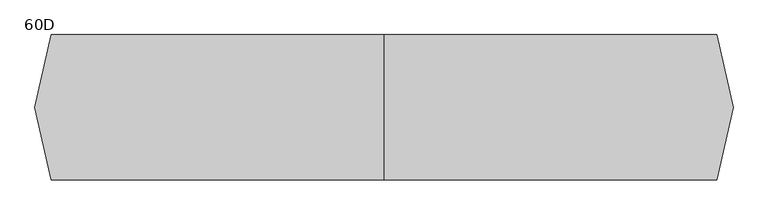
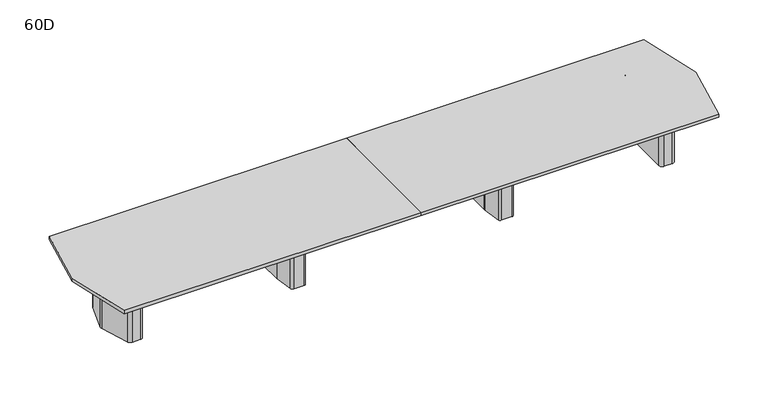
"""IFC4 building model written with IfcOpenShell, lengths in millimetres: furniture geometry, Coalesse_AM_Table_Conference_ETable2_Faceted_24ft_FourBase : 60D."""

from ifc_helpers import new_model, si_unit, point, frame, frame_2d, origin, origin_with_axes, place, context, project, spatial, polyline, circle_curve, trimmed, segment, composite_curve, outline, extrude, source, transform, mapped, element, save
from ifc_brep_helpers import plane_surface, cylinder_surface, revolved_surface, advanced_brep


def furniture_60d_7845ec57(model_context):
    return source(origin(), model_context, "Body", "SolidModel", [
        advanced_brep(
        [(1280.2357815, 381.0, 698.5), (1158.1642185, 381.0, 698.5), (1133.0114006, 359.1349332, 698.5), (1101.9721821, 138.2753661, 698.5), (1101.725, 134.740433, 698.5), (1101.725, -134.7404196, 698.5), (1101.9721537, -138.2751502, 698.5), (1133.0095605, -359.1347306, 698.5), (1158.1624068, -381.0, 698.5), (1280.2375932, -381.0, 698.5), (1305.3904395, -359.1347306, 698.5), (1336.4278463, -138.2751502, 698.5), (1336.675, -134.7404196, 698.5), (1336.675, 134.740433, 698.5), (1336.4278179, 138.2753661, 698.5), (1305.3885994, 359.1349332, 698.5), (1244.6, 314.325, 698.5), (1270.0, 288.925, 698.5), (1270.0, -288.925, 698.5), (1244.6, -314.325, 698.5), (1193.8, -314.325, 698.5), (1168.4, -288.925, 698.5), (1168.4, 288.925, 698.5), (1193.8, 314.325, 698.5), (1280.2357815, 381.0, 3.175), (1305.3885994, 359.1349332, 3.175), (1336.4278179, 138.2753661, 3.175), (1336.675, 134.740433, 3.175), (1336.675, -134.7404196, 3.175), (1336.4278463, -138.2751502, 3.175), (1305.3904395, -359.1347306, 3.175), (1280.2375932, -381.0, 3.175), (1158.1624068, -381.0, 3.175), (1133.0095605, -359.1347306, 3.175), (1101.9721537, -138.2751502, 3.175), (1101.725, -134.7404196, 3.175), (1101.725, 134.740433, 3.175), (1101.9721821, 138.2753661, 3.175), (1133.0114006, 359.1349332, 3.175), (1158.1642185, 381.0, 3.175), (1244.6, 327.025, 3.175), (1193.8, 327.025, 3.175), (1155.7, 288.925, 3.175), (1155.7, -288.925, 3.175), (1193.8, -327.025, 3.175), (1244.6, -327.025, 3.175), (1282.7, -288.925, 3.175), (1282.7, 288.925, 3.175), (1244.6, 314.325, 3.175), (1270.0, 288.925, 3.175), (1270.0, -288.925, 3.175), (1244.6, -314.325, 3.175), (1193.8, -314.325, 3.175), (1168.4, -288.925, 3.175), (1168.4, 288.925, 3.175), (1193.8, 314.325, 3.175), (1244.6, 327.025, 0.0), (1282.7, 288.925, 0.0), (1282.7, -288.925, 0.0), (1244.6, -327.025, 0.0), (1193.8, -327.025, 0.0), (1155.7, -288.925, 0.0), (1155.7, 288.925, 0.0), (1193.8, 327.025, 0.0)],
        [
            (0, 1),
            (1, 2, circle_curve(frame((1158.1642185, 355.6, 698.5), z_axis=(0.0, 0.0, 1.0), x_axis=(1.0, 0.0, 0.0)), 25.4)),
            (2, 3),
            (3, 4, circle_curve(frame((1127.125, 134.740433, 698.5), z_axis=(0.0, 0.0, 1.0), x_axis=(1.0, 0.0, 0.0)), 25.4)),
            (4, 5),
            (5, 6, circle_curve(frame((1127.125, -134.7404196, 698.5), z_axis=(0.0, 0.0, 1.0), x_axis=(1.0, 0.0, 0.0)), 25.4)),
            (6, 7),
            (7, 8, circle_curve(frame((1158.1624068, -355.6, 698.5), z_axis=(0.0, 0.0, 1.0), x_axis=(1.0, 0.0, 0.0)), 25.4)),
            (8, 9),
            (9, 10, circle_curve(frame((1280.2375932, -355.6, 698.5), z_axis=(0.0, 0.0, 1.0), x_axis=(1.0, 0.0, 0.0)), 25.4)),
            (10, 11),
            (11, 12, circle_curve(frame((1311.275, -134.7404196, 698.5), z_axis=(0.0, 0.0, 1.0), x_axis=(1.0, 0.0, 0.0)), 25.4)),
            (12, 13),
            (13, 14, circle_curve(frame((1311.275, 134.740433, 698.5), z_axis=(0.0, 0.0, 1.0), x_axis=(1.0, 0.0, 0.0)), 25.4)),
            (14, 15),
            (15, 0, circle_curve(frame((1280.2357815, 355.6, 698.5), z_axis=(0.0, 0.0, 1.0), x_axis=(1.0, 0.0, 0.0)), 25.4)),
            (16, 17, circle_curve(frame((1244.6, 288.925, 698.5), z_axis=(0.0, 0.0, -1.0), x_axis=(1.0, 0.0, 0.0)), 25.4)),
            (17, 18),
            (18, 19, circle_curve(frame((1244.6, -288.925, 698.5), z_axis=(0.0, 0.0, -1.0), x_axis=(1.0, 0.0, 0.0)), 25.4)),
            (19, 20),
            (20, 21, circle_curve(frame((1193.8, -288.925, 698.5), z_axis=(0.0, 0.0, -1.0), x_axis=(1.0, 0.0, 0.0)), 25.4)),
            (21, 22),
            (22, 23, circle_curve(frame((1193.8, 288.925, 698.5), z_axis=(0.0, 0.0, -1.0), x_axis=(1.0, 0.0, 0.0)), 25.4)),
            (23, 16),
            (24, 25, circle_curve(frame((1280.2357815, 355.6, 3.175), z_axis=(0.0, 0.0, -1.0), x_axis=(1.0, 0.0, 0.0)), 25.4)),
            (25, 26),
            (26, 27, circle_curve(frame((1311.275, 134.740433, 3.175), z_axis=(0.0, 0.0, -1.0), x_axis=(1.0, 0.0, 0.0)), 25.4)),
            (27, 28),
            (28, 29, circle_curve(frame((1311.275, -134.7404196, 3.175), z_axis=(0.0, 0.0, -1.0), x_axis=(1.0, 0.0, 0.0)), 25.4)),
            (29, 30),
            (30, 31, circle_curve(frame((1280.2375932, -355.6, 3.175), z_axis=(0.0, 0.0, -1.0), x_axis=(1.0, 0.0, 0.0)), 25.4)),
            (31, 32),
            (32, 33, circle_curve(frame((1158.1624068, -355.6, 3.175), z_axis=(0.0, 0.0, -1.0), x_axis=(1.0, 0.0, 0.0)), 25.4)),
            (33, 34),
            (34, 35, circle_curve(frame((1127.125, -134.7404196, 3.175), z_axis=(0.0, 0.0, -1.0), x_axis=(1.0, 0.0, 0.0)), 25.4)),
            (35, 36),
            (36, 37, circle_curve(frame((1127.125, 134.740433, 3.175), z_axis=(0.0, 0.0, -1.0), x_axis=(1.0, 0.0, 0.0)), 25.4)),
            (37, 38),
            (38, 39, circle_curve(frame((1158.1642185, 355.6, 3.175), z_axis=(0.0, 0.0, -1.0), x_axis=(1.0, 0.0, 0.0)), 25.4)),
            (39, 24),
            (40, 41),
            (41, 42, circle_curve(frame((1193.8, 288.925, 3.175), z_axis=(0.0, 0.0, 1.0), x_axis=(1.0, 0.0, 0.0)), 38.1)),
            (42, 43),
            (43, 44, circle_curve(frame((1193.8, -288.925, 3.175), z_axis=(0.0, 0.0, 1.0), x_axis=(1.0, 0.0, 0.0)), 38.1)),
            (44, 45),
            (45, 46, circle_curve(frame((1244.6, -288.925, 3.175), z_axis=(0.0, 0.0, 1.0), x_axis=(1.0, 0.0, 0.0)), 38.1)),
            (46, 47),
            (47, 40, circle_curve(frame((1244.6, 288.925, 3.175), z_axis=(0.0, 0.0, 1.0), x_axis=(1.0, 0.0, 0.0)), 38.1)),
            (0, 24),
            (39, 1),
            (38, 2),
            (37, 3),
            (36, 4),
            (35, 5),
            (34, 6),
            (33, 7),
            (32, 8),
            (31, 9),
            (30, 10),
            (29, 11),
            (28, 12),
            (27, 13),
            (26, 14),
            (25, 15),
            (16, 48),
            (48, 49, circle_curve(frame((1244.6, 288.925, 3.175), z_axis=(0.0, 0.0, -1.0), x_axis=(1.0, 0.0, 0.0)), 25.4)),
            (49, 17),
            (49, 50),
            (50, 18),
            (50, 51, circle_curve(frame((1244.6, -288.925, 3.175), z_axis=(0.0, 0.0, -1.0), x_axis=(1.0, 0.0, 0.0)), 25.4)),
            (51, 19),
            (51, 52),
            (52, 20),
            (52, 53, circle_curve(frame((1193.8, -288.925, 3.175), z_axis=(0.0, 0.0, -1.0), x_axis=(1.0, 0.0, 0.0)), 25.4)),
            (53, 21),
            (53, 54),
            (54, 22),
            (54, 55, circle_curve(frame((1193.8, 288.925, 3.175), z_axis=(0.0, 0.0, -1.0), x_axis=(1.0, 0.0, 0.0)), 25.4)),
            (55, 23),
            (55, 48),
            (56, 57, circle_curve(frame((1244.6, 288.925, 0.0), z_axis=(0.0, 0.0, -1.0), x_axis=(1.0, 0.0, 0.0)), 38.1)),
            (57, 58),
            (58, 59, circle_curve(frame((1244.6, -288.925, 0.0), z_axis=(0.0, 0.0, -1.0), x_axis=(1.0, 0.0, 0.0)), 38.1)),
            (59, 60),
            (60, 61, circle_curve(frame((1193.8, -288.925, 0.0), z_axis=(0.0, 0.0, -1.0), x_axis=(1.0, 0.0, 0.0)), 38.1)),
            (61, 62),
            (62, 63, circle_curve(frame((1193.8, 288.925, 0.0), z_axis=(0.0, 0.0, -1.0), x_axis=(1.0, 0.0, 0.0)), 38.1)),
            (63, 56),
            (63, 41),
            (40, 56),
            (62, 42),
            (61, 43),
            (60, 44),
            (59, 45),
            (58, 46),
            (57, 47),
        ],
        [
            plane_surface(frame((-304.8, 381.0, 698.5), z_axis=(0.0, 0.0, 1.0), x_axis=(-1.0, 0.0, 0.0))),
            plane_surface(frame((-304.8, 381.0, 3.175), z_axis=(0.0, 0.0, -1.0), x_axis=(1.0, 0.0, 0.0))),
            plane_surface(frame((1280.2357815, 381.0, 698.5), z_axis=(0.0, 1.0, 0.0), x_axis=(0.0, 0.0, -1.0))),
            cylinder_surface(frame((1158.1642185, 355.6, 3.175), z_axis=(0.0, 0.0, 1.0), x_axis=(1.0, 0.0, 0.0)), 25.4),
            plane_surface(frame((1133.0114006, 359.1349332, 698.5), z_axis=(-0.9902684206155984, 0.13917059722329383, 0.0), x_axis=(0.0, 0.0, -1.0))),
            cylinder_surface(frame((1127.125, 134.740433, 3.175), z_axis=(0.0, 0.0, 1.0), x_axis=(1.0, 0.0, 0.0)), 25.4),
            plane_surface(frame((1101.725, 134.740433, 698.5), z_axis=(-1.0, 0.0, 0.0), x_axis=(0.0, 0.0, -1.0))),
            cylinder_surface(frame((1127.125, -134.7404196, 3.175), z_axis=(0.0, 0.0, 1.0), x_axis=(1.0, 0.0, 0.0)), 25.4),
            plane_surface(frame((1101.9721537, -138.2751502, 698.5), z_axis=(-0.9902695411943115, -0.1391626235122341, 0.0), x_axis=(0.0, 0.0, -1.0))),
            cylinder_surface(frame((1158.1624068, -355.6, 3.175), z_axis=(0.0, 0.0, 1.0), x_axis=(1.0, 0.0, 0.0)), 25.4),
            plane_surface(frame((1158.1624068, -381.0, 698.5), z_axis=(0.0, -1.0, 0.0), x_axis=(0.0, 0.0, -1.0))),
            cylinder_surface(frame((1280.2375932, -355.6, 3.175), z_axis=(0.0, 0.0, 1.0), x_axis=(1.0, 0.0, 0.0)), 25.4),
            plane_surface(frame((1305.3904395, -359.1347306, 698.5), z_axis=(0.9902695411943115, -0.1391626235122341, 0.0), x_axis=(0.0, 0.0, -1.0))),
            cylinder_surface(frame((1311.275, -134.7404196, 3.175), z_axis=(0.0, 0.0, 1.0), x_axis=(1.0, 0.0, 0.0)), 25.4),
            plane_surface(frame((1336.675, -134.7404196, 698.5), z_axis=(1.0, 0.0, 0.0), x_axis=(0.0, 0.0, -1.0))),
            cylinder_surface(frame((1311.275, 134.740433, 3.175), z_axis=(0.0, 0.0, 1.0), x_axis=(1.0, 0.0, 0.0)), 25.4),
            plane_surface(frame((1336.4278179, 138.2753661, 698.5), z_axis=(0.9902684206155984, 0.13917059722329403, 0.0), x_axis=(0.0, 0.0, -1.0))),
            cylinder_surface(frame((1280.2357815, 355.6, 3.175), z_axis=(0.0, 0.0, 1.0), x_axis=(1.0, 0.0, 0.0)), 25.4),
            revolved_surface(polyline([(1270.0, 288.925, 3.175), (1270.0, 288.925, 698.5)]), (1244.6, 288.925, 0.0), (0.0, 0.0, -1.0)),
            plane_surface(frame((1270.0, 288.925, 698.5), z_axis=(-1.0, 0.0, 0.0), x_axis=(0.0, 0.0, -1.0))),
            revolved_surface(polyline([(1270.0, -288.925, 3.175), (1270.0, -288.925, 698.5)]), (1244.6, -288.925, 0.0), (0.0, 0.0, -1.0)),
            plane_surface(frame((1244.6, -314.325, 698.5), z_axis=(0.0, 1.0, 0.0), x_axis=(0.0, 0.0, -1.0))),
            revolved_surface(polyline([(1219.2, -288.925, 3.175), (1219.2, -288.925, 698.5)]), (1193.8, -288.925, 0.0), (0.0, 0.0, -1.0)),
            plane_surface(frame((1168.4, -288.925, 698.5), z_axis=(1.0, 0.0, 0.0), x_axis=(0.0, 0.0, -1.0))),
            revolved_surface(polyline([(1219.2, 288.925, 3.175), (1219.2, 288.925, 698.5)]), (1193.8, 288.925, 0.0), (0.0, 0.0, -1.0)),
            plane_surface(frame((1193.8, 314.325, 698.5), z_axis=(0.0, -1.0, 0.0), x_axis=(0.0, 0.0, -1.0))),
            plane_surface(frame((1168.4, 327.025, 3.175), z_axis=(0.0, 0.0, 1.0), x_axis=(-1.0, 0.0, 0.0))),
            plane_surface(frame((1168.4, 327.025, 0.0), z_axis=(0.0, 0.0, -1.0), x_axis=(1.0, 0.0, 0.0))),
            plane_surface(frame((1244.6, 327.025, 3.175), z_axis=(0.0, 1.0, 0.0), x_axis=(0.0, 0.0, -1.0))),
            cylinder_surface(frame((1193.8, 288.925, 0.0), z_axis=(0.0, 0.0, 1.0), x_axis=(1.0, 0.0, 0.0)), 38.1),
            plane_surface(frame((1155.7, 288.925, 3.175), z_axis=(-1.0, 0.0, 0.0), x_axis=(0.0, 0.0, -1.0))),
            cylinder_surface(frame((1193.8, -288.925, 0.0), z_axis=(0.0, 0.0, 1.0), x_axis=(1.0, 0.0, 0.0)), 38.1),
            plane_surface(frame((1193.8, -327.025, 3.175), z_axis=(0.0, -1.0, 0.0), x_axis=(0.0, 0.0, -1.0))),
            cylinder_surface(frame((1244.6, -288.925, 0.0), z_axis=(0.0, 0.0, 1.0), x_axis=(1.0, 0.0, 0.0)), 38.1),
            plane_surface(frame((1282.7, -288.925, 3.175), z_axis=(1.0, 0.0, 0.0), x_axis=(0.0, 0.0, -1.0))),
            cylinder_surface(frame((1244.6, 288.925, 0.0), z_axis=(0.0, 0.0, 1.0), x_axis=(1.0, 0.0, 0.0)), 38.1),
        ],
        [
            (0, [[1, 2, 3, 4, 5, 6, 7, 8, 9, 10, 11, 12, 13, 14, 15, 16], [17, 18, 19, 20, 21, 22, 23, 24]]),
            (1, [[25, 26, 27, 28, 29, 30, 31, 32, 33, 34, 35, 36, 37, 38, 39, 40], [41, 42, 43, 44, 45, 46, 47, 48]]),
            (2, [[-1, 49, -40, 50]]),
            (3, [[-2, -50, -39, 51]]),
            (4, [[-3, -51, -38, 52]]),
            (5, [[-4, -52, -37, 53]]),
            (6, [[-5, -53, -36, 54]]),
            (7, [[-6, -54, -35, 55]]),
            (8, [[-7, -55, -34, 56]]),
            (9, [[-8, -56, -33, 57]]),
            (10, [[-9, -57, -32, 58]]),
            (11, [[-10, -58, -31, 59]]),
            (12, [[-11, -59, -30, 60]]),
            (13, [[-12, -60, -29, 61]]),
            (14, [[-13, -61, -28, 62]]),
            (15, [[-14, -62, -27, 63]]),
            (16, [[-15, -63, -26, 64]]),
            (17, [[-16, -64, -25, -49]]),
            (18, [[-17, 65, 66, 67]]),
            (19, [[-18, -67, 68, 69]]),
            (20, [[-19, -69, 70, 71]]),
            (21, [[-20, -71, 72, 73]]),
            (22, [[-21, -73, 74, 75]]),
            (23, [[-22, -75, 76, 77]]),
            (24, [[-23, -77, 78, 79]]),
            (25, [[-24, -79, 80, -65]]),
            (26, [[-66, -80, -78, -76, -74, -72, -70, -68]]),
            (27, [[81, 82, 83, 84, 85, 86, 87, 88]]),
            (28, [[-88, 89, -41, 90]]),
            (29, [[-87, 91, -42, -89]]),
            (30, [[-86, 92, -43, -91]]),
            (31, [[-85, 93, -44, -92]]),
            (32, [[-84, 94, -45, -93]]),
            (33, [[-83, 95, -46, -94]]),
            (34, [[-82, 96, -47, -95]]),
            (35, [[-81, -90, -48, -96]]),
        ],
    ),
        advanced_brep(
        [(-1158.1642185, 381.0, 698.5), (-1280.2357815, 381.0, 698.5), (-1305.3885994, 359.1349332, 698.5), (-1336.4278179, 138.2753661, 698.5), (-1336.675, 134.740433, 698.5), (-1336.675, -134.7404196, 698.5), (-1336.4278463, -138.2751502, 698.5), (-1305.3904395, -359.1347306, 698.5), (-1280.2375932, -381.0, 698.5), (-1158.1624068, -381.0, 698.5), (-1133.0095605, -359.1347306, 698.5), (-1101.9721537, -138.2751502, 698.5), (-1101.725, -134.7404196, 698.5), (-1101.725, 134.740433, 698.5), (-1101.9721821, 138.2753661, 698.5), (-1133.0114006, 359.1349332, 698.5), (-1193.8, 314.325, 698.5), (-1168.4, 288.925, 698.5), (-1168.4, -288.925, 698.5), (-1193.8, -314.325, 698.5), (-1244.6, -314.325, 698.5), (-1270.0, -288.925, 698.5), (-1270.0, 288.925, 698.5), (-1244.6, 314.325, 698.5), (-1158.1642185, 381.0, 3.175), (-1133.0114006, 359.1349332, 3.175), (-1101.9721821, 138.2753661, 3.175), (-1101.725, 134.740433, 3.175), (-1101.725, -134.7404196, 3.175), (-1101.9721537, -138.2751502, 3.175), (-1133.0095605, -359.1347306, 3.175), (-1158.1624068, -381.0, 3.175), (-1280.2375932, -381.0, 3.175), (-1305.3904395, -359.1347306, 3.175), (-1336.4278463, -138.2751502, 3.175), (-1336.675, -134.7404196, 3.175), (-1336.675, 134.740433, 3.175), (-1336.4278179, 138.2753661, 3.175), (-1305.3885994, 359.1349332, 3.175), (-1280.2357815, 381.0, 3.175), (-1193.8, 327.025, 3.175), (-1244.6, 327.025, 3.175), (-1282.7, 288.925, 3.175), (-1282.7, -288.925, 3.175), (-1244.6, -327.025, 3.175), (-1193.8, -327.025, 3.175), (-1155.7, -288.925, 3.175), (-1155.7, 288.925, 3.175), (-1193.8, 314.325, 3.175), (-1168.4, 288.925, 3.175), (-1168.4, -288.925, 3.175), (-1193.8, -314.325, 3.175), (-1244.6, -314.325, 3.175), (-1270.0, -288.925, 3.175), (-1270.0, 288.925, 3.175), (-1244.6, 314.325, 3.175), (-1193.8, 327.025, 0.0), (-1155.7, 288.925, 0.0), (-1155.7, -288.925, 0.0), (-1193.8, -327.025, 0.0), (-1244.6, -327.025, 0.0), (-1282.7, -288.925, 0.0), (-1282.7, 288.925, 0.0), (-1244.6, 327.025, 0.0)],
        [
            (0, 1),
            (1, 2, circle_curve(frame((-1280.2357815, 355.6, 698.5), z_axis=(0.0, 0.0, 1.0), x_axis=(1.0, 0.0, 0.0)), 25.4)),
            (2, 3),
            (3, 4, circle_curve(frame((-1311.275, 134.740433, 698.5), z_axis=(0.0, 0.0, 1.0), x_axis=(1.0, 0.0, 0.0)), 25.4)),
            (4, 5),
            (5, 6, circle_curve(frame((-1311.275, -134.7404196, 698.5), z_axis=(0.0, 0.0, 1.0), x_axis=(1.0, 0.0, 0.0)), 25.4)),
            (6, 7),
            (7, 8, circle_curve(frame((-1280.2375932, -355.6, 698.5), z_axis=(0.0, 0.0, 1.0), x_axis=(1.0, 0.0, 0.0)), 25.4)),
            (8, 9),
            (9, 10, circle_curve(frame((-1158.1624068, -355.6, 698.5), z_axis=(0.0, 0.0, 1.0), x_axis=(1.0, 0.0, 0.0)), 25.4)),
            (10, 11),
            (11, 12, circle_curve(frame((-1127.125, -134.7404196, 698.5), z_axis=(0.0, 0.0, 1.0), x_axis=(1.0, 0.0, 0.0)), 25.4)),
            (12, 13),
            (13, 14, circle_curve(frame((-1127.125, 134.740433, 698.5), z_axis=(0.0, 0.0, 1.0), x_axis=(1.0, 0.0, 0.0)), 25.4)),
            (14, 15),
            (15, 0, circle_curve(frame((-1158.1642185, 355.6, 698.5), z_axis=(0.0, 0.0, 1.0), x_axis=(1.0, 0.0, 0.0)), 25.4)),
            (16, 17, circle_curve(frame((-1193.8, 288.925, 698.5), z_axis=(0.0, 0.0, -1.0), x_axis=(1.0, 0.0, 0.0)), 25.4)),
            (17, 18),
            (18, 19, circle_curve(frame((-1193.8, -288.925, 698.5), z_axis=(0.0, 0.0, -1.0), x_axis=(1.0, 0.0, 0.0)), 25.4)),
            (19, 20),
            (20, 21, circle_curve(frame((-1244.6, -288.925, 698.5), z_axis=(0.0, 0.0, -1.0), x_axis=(1.0, 0.0, 0.0)), 25.4)),
            (21, 22),
            (22, 23, circle_curve(frame((-1244.6, 288.925, 698.5), z_axis=(0.0, 0.0, -1.0), x_axis=(1.0, 0.0, 0.0)), 25.4)),
            (23, 16),
            (24, 25, circle_curve(frame((-1158.1642185, 355.6, 3.175), z_axis=(0.0, 0.0, -1.0), x_axis=(1.0, 0.0, 0.0)), 25.4)),
            (25, 26),
            (26, 27, circle_curve(frame((-1127.125, 134.740433, 3.175), z_axis=(0.0, 0.0, -1.0), x_axis=(1.0, 0.0, 0.0)), 25.4)),
            (27, 28),
            (28, 29, circle_curve(frame((-1127.125, -134.7404196, 3.175), z_axis=(0.0, 0.0, -1.0), x_axis=(1.0, 0.0, 0.0)), 25.4)),
            (29, 30),
            (30, 31, circle_curve(frame((-1158.1624068, -355.6, 3.175), z_axis=(0.0, 0.0, -1.0), x_axis=(1.0, 0.0, 0.0)), 25.4)),
            (31, 32),
            (32, 33, circle_curve(frame((-1280.2375932, -355.6, 3.175), z_axis=(0.0, 0.0, -1.0), x_axis=(1.0, 0.0, 0.0)), 25.4)),
            (33, 34),
            (34, 35, circle_curve(frame((-1311.275, -134.7404196, 3.175), z_axis=(0.0, 0.0, -1.0), x_axis=(1.0, 0.0, 0.0)), 25.4)),
            (35, 36),
            (36, 37, circle_curve(frame((-1311.275, 134.740433, 3.175), z_axis=(0.0, 0.0, -1.0), x_axis=(1.0, 0.0, 0.0)), 25.4)),
            (37, 38),
            (38, 39, circle_curve(frame((-1280.2357815, 355.6, 3.175), z_axis=(0.0, 0.0, -1.0), x_axis=(1.0, 0.0, 0.0)), 25.4)),
            (39, 24),
            (40, 41),
            (41, 42, circle_curve(frame((-1244.6, 288.925, 3.175), z_axis=(0.0, 0.0, 1.0), x_axis=(1.0, 0.0, 0.0)), 38.1)),
            (42, 43),
            (43, 44, circle_curve(frame((-1244.6, -288.925, 3.175), z_axis=(0.0, 0.0, 1.0), x_axis=(1.0, 0.0, 0.0)), 38.1)),
            (44, 45),
            (45, 46, circle_curve(frame((-1193.8, -288.925, 3.175), z_axis=(0.0, 0.0, 1.0), x_axis=(1.0, 0.0, 0.0)), 38.1)),
            (46, 47),
            (47, 40, circle_curve(frame((-1193.8, 288.925, 3.175), z_axis=(0.0, 0.0, 1.0), x_axis=(1.0, 0.0, 0.0)), 38.1)),
            (0, 24),
            (39, 1),
            (38, 2),
            (37, 3),
            (36, 4),
            (35, 5),
            (34, 6),
            (33, 7),
            (32, 8),
            (31, 9),
            (30, 10),
            (29, 11),
            (28, 12),
            (27, 13),
            (26, 14),
            (25, 15),
            (16, 48),
            (48, 49, circle_curve(frame((-1193.8, 288.925, 3.175), z_axis=(0.0, 0.0, -1.0), x_axis=(1.0, 0.0, 0.0)), 25.4)),
            (49, 17),
            (49, 50),
            (50, 18),
            (50, 51, circle_curve(frame((-1193.8, -288.925, 3.175), z_axis=(0.0, 0.0, -1.0), x_axis=(1.0, 0.0, 0.0)), 25.4)),
            (51, 19),
            (51, 52),
            (52, 20),
            (52, 53, circle_curve(frame((-1244.6, -288.925, 3.175), z_axis=(0.0, 0.0, -1.0), x_axis=(1.0, 0.0, 0.0)), 25.4)),
            (53, 21),
            (53, 54),
            (54, 22),
            (54, 55, circle_curve(frame((-1244.6, 288.925, 3.175), z_axis=(0.0, 0.0, -1.0), x_axis=(1.0, 0.0, 0.0)), 25.4)),
            (55, 23),
            (55, 48),
            (56, 57, circle_curve(frame((-1193.8, 288.925, 0.0), z_axis=(0.0, 0.0, -1.0), x_axis=(1.0, 0.0, 0.0)), 38.1)),
            (57, 58),
            (58, 59, circle_curve(frame((-1193.8, -288.925, 0.0), z_axis=(0.0, 0.0, -1.0), x_axis=(1.0, 0.0, 0.0)), 38.1)),
            (59, 60),
            (60, 61, circle_curve(frame((-1244.6, -288.925, 0.0), z_axis=(0.0, 0.0, -1.0), x_axis=(1.0, 0.0, 0.0)), 38.1)),
            (61, 62),
            (62, 63, circle_curve(frame((-1244.6, 288.925, 0.0), z_axis=(0.0, 0.0, -1.0), x_axis=(1.0, 0.0, 0.0)), 38.1)),
            (63, 56),
            (63, 41),
            (40, 56),
            (62, 42),
            (61, 43),
            (60, 44),
            (59, 45),
            (58, 46),
            (57, 47),
        ],
        [
            plane_surface(frame((-2743.2, 381.0, 698.5), z_axis=(0.0, 0.0, 1.0), x_axis=(-1.0, 0.0, 0.0))),
            plane_surface(frame((-2743.2, 381.0, 3.175), z_axis=(0.0, 0.0, -1.0), x_axis=(1.0, 0.0, 0.0))),
            plane_surface(frame((-1158.1642185, 381.0, 698.5), z_axis=(0.0, 1.0, 0.0), x_axis=(0.0, 0.0, -1.0))),
            cylinder_surface(frame((-1280.2357815, 355.6, 3.175), z_axis=(0.0, 0.0, 1.0), x_axis=(1.0, 0.0, 0.0)), 25.4),
            plane_surface(frame((-1305.3885994, 359.1349332, 698.5), z_axis=(-0.9902684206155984, 0.13917059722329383, 0.0), x_axis=(0.0, 0.0, -1.0))),
            cylinder_surface(frame((-1311.275, 134.740433, 3.175), z_axis=(0.0, 0.0, 1.0), x_axis=(1.0, 0.0, 0.0)), 25.4),
            plane_surface(frame((-1336.675, 134.740433, 698.5), z_axis=(-1.0, 0.0, 0.0), x_axis=(0.0, 0.0, -1.0))),
            cylinder_surface(frame((-1311.275, -134.7404196, 3.175), z_axis=(0.0, 0.0, 1.0), x_axis=(1.0, 0.0, 0.0)), 25.4),
            plane_surface(frame((-1336.4278463, -138.2751502, 698.5), z_axis=(-0.9902695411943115, -0.1391626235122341, 0.0), x_axis=(0.0, 0.0, -1.0))),
            cylinder_surface(frame((-1280.2375932, -355.6, 3.175), z_axis=(0.0, 0.0, 1.0), x_axis=(1.0, 0.0, 0.0)), 25.4),
            plane_surface(frame((-1280.2375932, -381.0, 698.5), z_axis=(0.0, -1.0, 0.0), x_axis=(0.0, 0.0, -1.0))),
            cylinder_surface(frame((-1158.1624068, -355.6, 3.175), z_axis=(0.0, 0.0, 1.0), x_axis=(1.0, 0.0, 0.0)), 25.4),
            plane_surface(frame((-1133.0095605, -359.1347306, 698.5), z_axis=(0.9902695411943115, -0.1391626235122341, 0.0), x_axis=(0.0, 0.0, -1.0))),
            cylinder_surface(frame((-1127.125, -134.7404196, 3.175), z_axis=(0.0, 0.0, 1.0), x_axis=(1.0, 0.0, 0.0)), 25.4),
            plane_surface(frame((-1101.725, -134.7404196, 698.5), z_axis=(1.0, 0.0, 0.0), x_axis=(0.0, 0.0, -1.0))),
            cylinder_surface(frame((-1127.125, 134.740433, 3.175), z_axis=(0.0, 0.0, 1.0), x_axis=(1.0, 0.0, 0.0)), 25.4),
            plane_surface(frame((-1101.9721821, 138.2753661, 698.5), z_axis=(0.9902684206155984, 0.13917059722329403, 0.0), x_axis=(0.0, 0.0, -1.0))),
            cylinder_surface(frame((-1158.1642185, 355.6, 3.175), z_axis=(0.0, 0.0, 1.0), x_axis=(1.0, 0.0, 0.0)), 25.4),
            revolved_surface(polyline([(-1168.3999999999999, 288.925, 3.175), (-1168.3999999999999, 288.925, 698.5)]), (-1193.8, 288.925, 0.0), (0.0, 0.0, -1.0)),
            plane_surface(frame((-1168.4, 288.925, 698.5), z_axis=(-1.0, 0.0, 0.0), x_axis=(0.0, 0.0, -1.0))),
            revolved_surface(polyline([(-1168.3999999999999, -288.925, 3.175), (-1168.3999999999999, -288.925, 698.5)]), (-1193.8, -288.925, 0.0), (0.0, 0.0, -1.0)),
            plane_surface(frame((-1193.8, -314.325, 698.5), z_axis=(0.0, 1.0, 0.0), x_axis=(0.0, 0.0, -1.0))),
            revolved_surface(polyline([(-1219.1999999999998, -288.925, 3.175), (-1219.1999999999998, -288.925, 698.5)]), (-1244.6, -288.925, 0.0), (0.0, 0.0, -1.0)),
            plane_surface(frame((-1270.0, -288.925, 698.5), z_axis=(1.0, 0.0, 0.0), x_axis=(0.0, 0.0, -1.0))),
            revolved_surface(polyline([(-1219.1999999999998, 288.925, 3.175), (-1219.1999999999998, 288.925, 698.5)]), (-1244.6, 288.925, 0.0), (0.0, 0.0, -1.0)),
            plane_surface(frame((-1244.6, 314.325, 698.5), z_axis=(0.0, -1.0, 0.0), x_axis=(0.0, 0.0, -1.0))),
            plane_surface(frame((-1270.0, 327.025, 3.175), z_axis=(0.0, 0.0, 1.0), x_axis=(-1.0, 0.0, 0.0))),
            plane_surface(frame((-1270.0, 327.025, 0.0), z_axis=(0.0, 0.0, -1.0), x_axis=(1.0, 0.0, 0.0))),
            plane_surface(frame((-1193.8, 327.025, 3.175), z_axis=(0.0, 1.0, 0.0), x_axis=(0.0, 0.0, -1.0))),
            cylinder_surface(frame((-1244.6, 288.925, 0.0), z_axis=(0.0, 0.0, 1.0), x_axis=(1.0, 0.0, 0.0)), 38.1),
            plane_surface(frame((-1282.7, 288.925, 3.175), z_axis=(-1.0, 0.0, 0.0), x_axis=(0.0, 0.0, -1.0))),
            cylinder_surface(frame((-1244.6, -288.925, 0.0), z_axis=(0.0, 0.0, 1.0), x_axis=(1.0, 0.0, 0.0)), 38.1),
            plane_surface(frame((-1244.6, -327.025, 3.175), z_axis=(0.0, -1.0, 0.0), x_axis=(0.0, 0.0, -1.0))),
            cylinder_surface(frame((-1193.8, -288.925, 0.0), z_axis=(0.0, 0.0, 1.0), x_axis=(1.0, 0.0, 0.0)), 38.1),
            plane_surface(frame((-1155.7, -288.925, 3.175), z_axis=(1.0, 0.0, 0.0), x_axis=(0.0, 0.0, -1.0))),
            cylinder_surface(frame((-1193.8, 288.925, 0.0), z_axis=(0.0, 0.0, 1.0), x_axis=(1.0, 0.0, 0.0)), 38.1),
        ],
        [
            (0, [[1, 2, 3, 4, 5, 6, 7, 8, 9, 10, 11, 12, 13, 14, 15, 16], [17, 18, 19, 20, 21, 22, 23, 24]]),
            (1, [[25, 26, 27, 28, 29, 30, 31, 32, 33, 34, 35, 36, 37, 38, 39, 40], [41, 42, 43, 44, 45, 46, 47, 48]]),
            (2, [[-1, 49, -40, 50]]),
            (3, [[-2, -50, -39, 51]]),
            (4, [[-3, -51, -38, 52]]),
            (5, [[-4, -52, -37, 53]]),
            (6, [[-5, -53, -36, 54]]),
            (7, [[-6, -54, -35, 55]]),
            (8, [[-7, -55, -34, 56]]),
            (9, [[-8, -56, -33, 57]]),
            (10, [[-9, -57, -32, 58]]),
            (11, [[-10, -58, -31, 59]]),
            (12, [[-11, -59, -30, 60]]),
            (13, [[-12, -60, -29, 61]]),
            (14, [[-13, -61, -28, 62]]),
            (15, [[-14, -62, -27, 63]]),
            (16, [[-15, -63, -26, 64]]),
            (17, [[-16, -64, -25, -49]]),
            (18, [[-17, 65, 66, 67]]),
            (19, [[-18, -67, 68, 69]]),
            (20, [[-19, -69, 70, 71]]),
            (21, [[-20, -71, 72, 73]]),
            (22, [[-21, -73, 74, 75]]),
            (23, [[-22, -75, 76, 77]]),
            (24, [[-23, -77, 78, 79]]),
            (25, [[-24, -79, 80, -65]]),
            (26, [[-66, -80, -78, -76, -74, -72, -70, -68]]),
            (27, [[81, 82, 83, 84, 85, 86, 87, 88]]),
            (28, [[-88, 89, -41, 90]]),
            (29, [[-87, 91, -42, -89]]),
            (30, [[-86, 92, -43, -91]]),
            (31, [[-85, 93, -44, -92]]),
            (32, [[-84, 94, -45, -93]]),
            (33, [[-83, 95, -46, -94]]),
            (34, [[-82, 96, -47, -95]]),
            (35, [[-81, -90, -48, -96]]),
        ],
    ),
        extrude(outline(composite_curve([segment(polyline([(3255.9625, 101.7236478), (3255.9625, -97.2761514)]), True, "CONTINUOUS"), segment(trimmed(circle_curve(frame_2d((3217.8625, -97.2761514)), 38.1), [point((3255.9625, -97.2761514))], [point((3254.1991129, -108.7330515))], False, "CARTESIAN"), True, "CONTINUOUS"), segment(polyline([(3254.1991129, -108.7330515), (3195.7745591, -294.0319001)]), True, "CONTINUOUS"), segment(trimmed(circle_curve(frame_2d((3159.4379462, -282.575)), 38.1), [point((3195.7745591, -294.0319001))], [point((3159.4379462, -320.675))], False, "CARTESIAN"), True, "CONTINUOUS"), segment(polyline([(3159.4379462, -320.675), (3092.45, -320.675)]), True, "CONTINUOUS"), segment(trimmed(circle_curve(frame_2d((3092.45, -282.575)), 38.1), [point((3092.45, -320.675))], [point((3054.35, -282.575))], False, "CARTESIAN"), True, "CONTINUOUS"), segment(polyline([(3054.35, -282.575), (3054.35, 282.575)]), True, "CONTINUOUS"), segment(trimmed(circle_curve(frame_2d((3092.45, 282.575)), 38.1), [point((3054.35, 282.575))], [point((3092.45, 320.675))], False, "CARTESIAN"), True, "CONTINUOUS"), segment(polyline([(3092.45, 320.675), (3163.1873998, 320.675)]), True, "CONTINUOUS"), segment(trimmed(circle_curve(frame_2d((3163.1873998, 282.575)), 38.1), [point((3163.1873998, 320.675))], [point((3199.6572049, 293.6005756))], False, "CARTESIAN"), True, "CONTINUOUS"), segment(polyline([(3199.6572049, 293.6005756), (3254.3323051, 112.7492234)]), True, "CONTINUOUS"), segment(trimmed(circle_curve(frame_2d((3217.8625, 101.7236478)), 38.1), [point((3254.3323051, 112.7492234))], [point((3255.9625, 101.7236478))], False, "CARTESIAN"), True, "CONTINUOUS")], self_intersect=False)), origin_with_axes(), (0.0, 0.0, 1.0), 3.175),
        extrude(outline(composite_curve([segment(polyline([(3076.575, 381.0), (3164.7221663, 381.0)]), True, "CONTINUOUS"), segment(trimmed(circle_curve(frame_2d((3164.7221663, 339.725)), 41.275), [point((3164.7221663, 381.0))], [point((3204.0868303, 352.1366418))], False, "CARTESIAN"), True, "CONTINUOUS"), segment(polyline([(3204.0868303, 352.1366418), (3311.2018053, 12.4116418)]), True, "CONTINUOUS"), segment(trimmed(circle_curve(frame_2d((3271.8371413, 0.0)), 41.275), [point((3311.2018053, 12.4116418))], [point((3311.2018053, -12.4116418))], False, "CARTESIAN"), True, "CONTINUOUS"), segment(polyline([(3311.2018053, -12.4116418), (3204.0868303, -352.1366418)]), True, "CONTINUOUS"), segment(trimmed(circle_curve(frame_2d((3164.7221663, -339.725)), 41.275), [point((3204.0868303, -352.1366418))], [point((3164.7221663, -381.0))], False, "CARTESIAN"), True, "CONTINUOUS"), segment(polyline([(3164.7221663, -381.0), (3070.225, -381.0)]), True, "CONTINUOUS"), segment(trimmed(circle_curve(frame_2d((3070.225, -339.725)), 41.275), [point((3070.225, -381.0))], [point((3028.95, -339.725))], False, "CARTESIAN"), True, "CONTINUOUS"), segment(polyline([(3028.95, -339.725), (3028.95, 333.375)]), True, "CONTINUOUS"), segment(trimmed(circle_curve(frame_2d((3076.575, 333.375)), 47.625), [point((3028.95, 333.375))], [point((3076.575, 381.0))], False, "CARTESIAN"), True, "CONTINUOUS")], self_intersect=False), holes=[composite_curve([segment(trimmed(circle_curve(frame_2d((3092.45, -282.575)), 25.4), [point((3067.05, -282.575))], [point((3092.45, -307.975))], True, "CARTESIAN"), True, "CONTINUOUS"), segment(polyline([(3092.45, -307.975), (3159.4379462, -307.975)]), True, "CONTINUOUS"), segment(trimmed(circle_curve(frame_2d((3159.4379462, -282.575)), 25.4), [point((3159.4379462, -307.975))], [point((3183.6623548, -290.2129334))], True, "CARTESIAN"), True, "CONTINUOUS"), segment(polyline([(3183.6623548, -290.2129334), (3242.0869086, -104.9140848)]), True, "CONTINUOUS"), segment(trimmed(circle_curve(frame_2d((3217.8625, -97.2761514)), 25.4), [point((3242.0869086, -104.9140848))], [point((3243.2625, -97.2761514))], True, "CARTESIAN"), True, "CONTINUOUS"), segment(polyline([(3243.2625, -97.2761514), (3243.2625, 101.7236478)]), True, "CONTINUOUS"), segment(trimmed(circle_curve(frame_2d((3217.8625, 101.7236478)), 25.4), [point((3243.2625, 101.7236478))], [point((3242.1757034, 109.0740316))], True, "CARTESIAN"), True, "CONTINUOUS"), segment(polyline([(3242.1757034, 109.0740316), (3187.5006032, 289.9253837)]), True, "CONTINUOUS"), segment(trimmed(circle_curve(frame_2d((3163.1873998, 282.575)), 25.4), [point((3187.5006032, 289.9253837))], [point((3163.1873998, 307.975))], True, "CARTESIAN"), True, "CONTINUOUS"), segment(polyline([(3163.1873998, 307.975), (3092.45, 307.975)]), True, "CONTINUOUS"), segment(trimmed(circle_curve(frame_2d((3092.45, 282.575)), 25.4), [point((3092.45, 307.975))], [point((3067.05, 282.575))], True, "CARTESIAN"), True, "CONTINUOUS"), segment(polyline([(3067.05, 282.575), (3067.05, -282.575)]), True, "CONTINUOUS")], self_intersect=False)]), frame((0.0, 0.0, 3.175), z_axis=(0.0, 0.0, 1.0), x_axis=(1.0, 0.0, 0.0)), (0.0, 0.0, 1.0), 695.325),
        extrude(outline(composite_curve([segment(trimmed(circle_curve(frame_2d((-3228.975, 101.7236478)), 38.1), [point((-3267.075, 101.7236478))], [point((-3265.4448051, 112.7492234))], False, "CARTESIAN"), True, "CONTINUOUS"), segment(polyline([(-3265.4448051, 112.7492234), (-3210.7697049, 293.6005756)]), True, "CONTINUOUS"), segment(trimmed(circle_curve(frame_2d((-3174.2998998, 282.575)), 38.1), [point((-3210.7697049, 293.6005756))], [point((-3174.2998998, 320.675))], False, "CARTESIAN"), True, "CONTINUOUS"), segment(polyline([(-3174.2998998, 320.675), (-3103.5625, 320.675)]), True, "CONTINUOUS"), segment(trimmed(circle_curve(frame_2d((-3103.5625, 282.575)), 38.1), [point((-3103.5625, 320.675))], [point((-3065.4625, 282.575))], False, "CARTESIAN"), True, "CONTINUOUS"), segment(polyline([(-3065.4625, 282.575), (-3065.4625, -282.575)]), True, "CONTINUOUS"), segment(trimmed(circle_curve(frame_2d((-3103.5625, -282.575)), 38.1), [point((-3065.4625, -282.575))], [point((-3103.5625, -320.675))], False, "CARTESIAN"), True, "CONTINUOUS"), segment(polyline([(-3103.5625, -320.675), (-3170.5504462, -320.675)]), True, "CONTINUOUS"), segment(trimmed(circle_curve(frame_2d((-3170.5504462, -282.575)), 38.1), [point((-3170.5504462, -320.675))], [point((-3206.8870591, -294.0319001))], False, "CARTESIAN"), True, "CONTINUOUS"), segment(polyline([(-3206.8870591, -294.0319001), (-3265.3116129, -108.7330515)]), True, "CONTINUOUS"), segment(trimmed(circle_curve(frame_2d((-3228.975, -97.2761514)), 38.1), [point((-3265.3116129, -108.7330515))], [point((-3267.075, -97.2761514))], False, "CARTESIAN"), True, "CONTINUOUS"), segment(polyline([(-3267.075, -97.2761514), (-3267.075, 101.7236478)]), True, "CONTINUOUS")], self_intersect=False)), origin_with_axes(), (0.0, 0.0, 1.0), 3.175),
        extrude(outline(composite_curve([segment(trimmed(circle_curve(frame_2d((-3087.6875, 333.375)), 47.625), [point((-3087.6875, 381.0))], [point((-3040.0625, 333.375))], False, "CARTESIAN"), True, "CONTINUOUS"), segment(polyline([(-3040.0625, 333.375), (-3040.0625, -339.725)]), True, "CONTINUOUS"), segment(trimmed(circle_curve(frame_2d((-3081.3375, -339.725)), 41.275), [point((-3040.0625, -339.725))], [point((-3081.3375, -381.0))], False, "CARTESIAN"), True, "CONTINUOUS"), segment(polyline([(-3081.3375, -381.0), (-3175.8346663, -381.0)]), True, "CONTINUOUS"), segment(trimmed(circle_curve(frame_2d((-3175.8346663, -339.725)), 41.275), [point((-3175.8346663, -381.0))], [point((-3215.1993303, -352.1366418))], False, "CARTESIAN"), True, "CONTINUOUS"), segment(polyline([(-3215.1993303, -352.1366418), (-3322.3143053, -12.4116418)]), True, "CONTINUOUS"), segment(trimmed(circle_curve(frame_2d((-3282.9496413, 0.0)), 41.275), [point((-3322.3143053, -12.4116418))], [point((-3322.3143053, 12.4116418))], False, "CARTESIAN"), True, "CONTINUOUS"), segment(polyline([(-3322.3143053, 12.4116418), (-3215.1993303, 352.1366418)]), True, "CONTINUOUS"), segment(trimmed(circle_curve(frame_2d((-3175.8346663, 339.725)), 41.275), [point((-3215.1993303, 352.1366418))], [point((-3175.8346663, 381.0))], False, "CARTESIAN"), True, "CONTINUOUS"), segment(polyline([(-3175.8346663, 381.0), (-3087.6875, 381.0)]), True, "CONTINUOUS")], self_intersect=False), holes=[composite_curve([segment(polyline([(-3078.1625, -282.575), (-3078.1625, 282.575)]), True, "CONTINUOUS"), segment(trimmed(circle_curve(frame_2d((-3103.5625, 282.575)), 25.4), [point((-3078.1625, 282.575))], [point((-3103.5625, 307.975))], True, "CARTESIAN"), True, "CONTINUOUS"), segment(polyline([(-3103.5625, 307.975), (-3174.2998998, 307.975)]), True, "CONTINUOUS"), segment(trimmed(circle_curve(frame_2d((-3174.2998998, 282.575)), 25.4), [point((-3174.2998998, 307.975))], [point((-3198.6131032, 289.9253837))], True, "CARTESIAN"), True, "CONTINUOUS"), segment(polyline([(-3198.6131032, 289.9253837), (-3253.2882034, 109.0740316)]), True, "CONTINUOUS"), segment(trimmed(circle_curve(frame_2d((-3228.975, 101.7236478)), 25.4), [point((-3253.2882034, 109.0740316))], [point((-3254.375, 101.7236478))], True, "CARTESIAN"), True, "CONTINUOUS"), segment(polyline([(-3254.375, 101.7236478), (-3254.375, -97.2761514)]), True, "CONTINUOUS"), segment(trimmed(circle_curve(frame_2d((-3228.975, -97.2761514)), 25.4), [point((-3254.375, -97.2761514))], [point((-3253.1994086, -104.9140848))], True, "CARTESIAN"), True, "CONTINUOUS"), segment(polyline([(-3253.1994086, -104.9140848), (-3194.7748548, -290.2129334)]), True, "CONTINUOUS"), segment(trimmed(circle_curve(frame_2d((-3170.5504462, -282.575)), 25.4), [point((-3194.7748548, -290.2129334))], [point((-3170.5504462, -307.975))], True, "CARTESIAN"), True, "CONTINUOUS"), segment(polyline([(-3170.5504462, -307.975), (-3103.5625, -307.975)]), True, "CONTINUOUS"), segment(trimmed(circle_curve(frame_2d((-3103.5625, -282.575)), 25.4), [point((-3103.5625, -307.975))], [point((-3078.1625, -282.575))], True, "CARTESIAN"), True, "CONTINUOUS")], self_intersect=False)]), frame((0.0, 0.0, 3.175), z_axis=(0.0, 0.0, 1.0), x_axis=(1.0, 0.0, 0.0)), (0.0, 0.0, 1.0), 695.325),
        extrude(outline(polyline([(3488.6677242, 762.0), (3657.6, 0.0), (3488.6677242, -762.0), (0.0, -762.0), (0.0, 117.879596), (0.0, 762.0), (3488.6677242, 762.0)])), frame((0.0, 0.0, 698.5), z_axis=(0.0, 0.0, 1.0), x_axis=(1.0, 0.0, 0.0)), (0.0, 0.0, 1.0), 38.1),
        extrude(outline(polyline([(0.0, 11.6286897), (0.0, -762.0), (-3488.6677242, -762.0), (-3657.6, 0.0), (-3488.6677242, 762.0), (0.0, 762.0), (0.0, 11.6286897)])), frame((0.0, 0.0, 698.5), z_axis=(0.0, 0.0, 1.0), x_axis=(1.0, 0.0, 0.0)), (0.0, 0.0, 1.0), 38.1),
        extrude(outline(polyline([(96.8375, 698.5), (103.1875, 698.5), (103.1875, 476.25), (-103.1875, 476.25), (-103.1875, 698.5), (-96.8375, 698.5), (-96.8375, 482.6), (96.8375, 482.6), (96.8375, 698.5)])), frame((-3040.0625, 0.0, 0.0), z_axis=(1.0, 0.0, 0.0), x_axis=(0.0, 1.0, 0.0)), (0.0, 0.0, 1.0), 6069.0125),
    ])


if __name__ == "__main__":
    model = new_model("IFC4")
    model_context = context("Model", 3, world=origin())
    ifc_project = project(units=[si_unit("LENGTHUNIT", "METRE", prefix="MILLI")], contexts=[model_context])
    site = spatial("IfcSite", under=ifc_project)
    building = spatial("IfcBuilding", under=site)
    placement = place(None, origin())
    furniture_60d_shape = furniture_60d_7845ec57(model_context)
    element("IfcFurniture", 1, ObjectType="Coalesse_AM_Table_Conference_ETable2_Faceted_24ft_FourBase : 60D", at=placement, inside=building, context=model_context, shape_type="MappedRepresentation", body=[
        mapped(furniture_60d_shape, transform((0.0, 0.0, 0.0), x_axis=(1.0, 0.0, 0.0), y_axis=(0.0, 1.0, 0.0), z_axis=(0.0, 0.0, 1.0))),
    ])
    save(model, "model.ifc")
